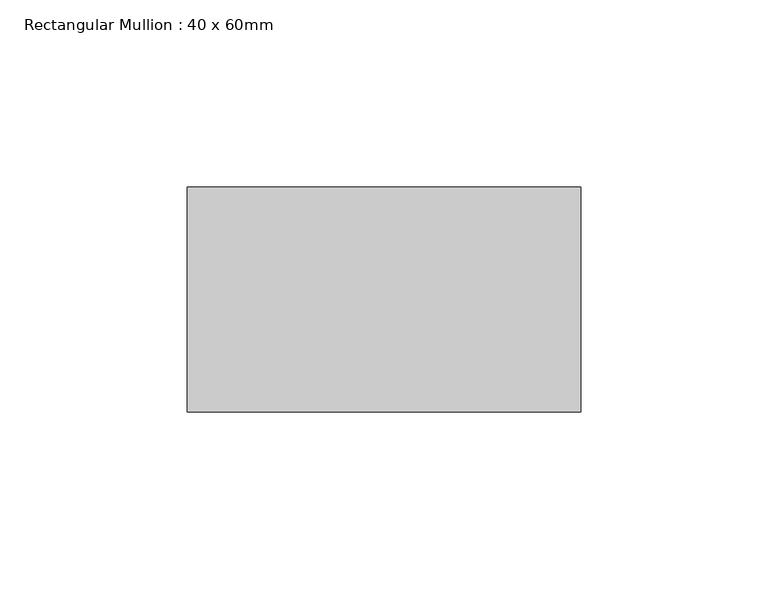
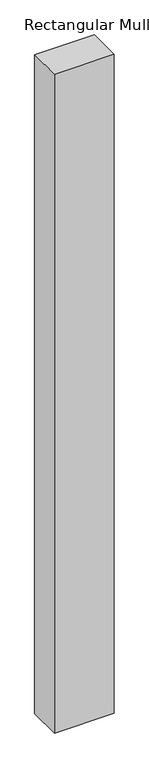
"""IFC4 building model written with IfcOpenShell, lengths in millimetres: member geometry, Rectangular Mullion : 40 x 60mm."""

import ifcopenshell
import ifcopenshell.guid

model = None  # the IFC model being written
_history = None  # IfcOwnerHistory: only IFC2X3 demands one
_inside = {}  # id of a spatial element -> (the spatial element, [elements in it])
_under = {}  # id of a project, library or spatial element -> (it, [spatial elements below it])
_declared = {}  # id of a project -> (the project, [libraries it declares])
_typed = {}  # id of a type object -> (the type object, [elements of that type])
_made_of = {}  # id of a material, layer set ... -> (it, [elements and type objects made of it])


def new_model(schema):
    """Start an empty IFC model of exactly this schema.

    Asked for "IFC4X3", IfcOpenShell would pick the latest addendum, in which some entities
    have other attributes; the version numbers below select the first issue.
    IFC2X3 requires an IfcOwnerHistory on every rooted entity: one is made here for all.
    """
    global model, _history
    if schema == "IFC4X3":
        model = ifcopenshell.file(schema_version=(4, 3, 0, 0))
    else:
        model = ifcopenshell.file(schema=schema)
    _inside.clear()
    _under.clear()
    _declared.clear()
    _typed.clear()
    _made_of.clear()
    _history = None
    if model.schema == "IFC2X3":
        org = make("IfcOrganization", Name="unknown")
        user = make(
            "IfcPersonAndOrganization",
            ThePerson=make("IfcPerson", FamilyName="unknown"),
            TheOrganization=org,
        )
        app = make(
            "IfcApplication",
            ApplicationDeveloper=org,
            Version="unknown",
            ApplicationFullName="unknown",
            ApplicationIdentifier="unknown",
        )
        _history = make(
            "IfcOwnerHistory",
            OwningUser=user,
            OwningApplication=app,
            ChangeAction="ADDED",
            CreationDate=0,
        )
    return model


def make(cls, **values):
    """One entity of the class cls with the attributes given. An attribute that is None is left unset."""
    return model.create_entity(
        cls, **{name: value for name, value in values.items() if value is not None}
    )


def rooted(cls, **values):
    """An entity with a GlobalId (a new one), such as an element, a storey or a relation."""
    return make(cls, GlobalId=ifcopenshell.guid.new(), OwnerHistory=_history, **values)


def si_unit(unit_type, name, prefix=None):
    """IfcSIUnit, for example si_unit("LENGTHUNIT", "METRE", prefix="MILLI")."""
    return make("IfcSIUnit", UnitType=unit_type, Prefix=prefix, Name=name)


def assignment(units):
    """IfcUnitAssignment: the units of a project."""
    return None if units is None else make("IfcUnitAssignment", Units=units)


def point(xyz):
    """IfcCartesianPoint."""
    return None if xyz is None else make("IfcCartesianPoint", Coordinates=xyz)


def direction(xyz):
    """IfcDirection."""
    return None if xyz is None else make("IfcDirection", DirectionRatios=xyz)


def frame(location, z_axis=None, x_axis=None):
    """IfcAxis2Placement3D, a coordinate frame: its origin and axes. An axis left out is left unset."""
    return make(
        "IfcAxis2Placement3D",
        Location=point(location),
        Axis=direction(z_axis),
        RefDirection=direction(x_axis),
    )


def origin():
    """The frame at (0, 0, 0) with its axes left unset."""
    return frame((0.0, 0.0, 0.0))


def place(relative_to, where):
    """IfcLocalPlacement: puts the frame where relative to a parent placement (None: the world)."""
    return make(
        "IfcLocalPlacement", PlacementRelTo=relative_to, RelativePlacement=where
    )


def context(
    kind, dimensions, precision=None, world=None, true_north=None, identifier=None
):
    """IfcGeometricRepresentationContext, for example the 3D "Model" context."""
    return make(
        "IfcGeometricRepresentationContext",
        ContextIdentifier=identifier,
        ContextType=kind,
        CoordinateSpaceDimension=dimensions,
        Precision=precision,
        WorldCoordinateSystem=world,
        TrueNorth=true_north,
    )


def project(units=None, contexts=None):
    """IfcProject with its units and contexts."""
    return rooted(
        "IfcProject",
        Name="project",
        RepresentationContexts=contexts,
        UnitsInContext=assignment(units),
    )


def spatial(cls, under=None, at=None, **own):
    """A site, building, storey or space (cls), placed at a placement, below another one or the project."""
    s = rooted(cls, ObjectPlacement=at, **own)
    if under is not None:
        _under.setdefault(under.id(), (under, []))[1].append(s)
    return s


def polyline(points):
    """IfcPolyline through the points."""
    return make("IfcPolyline", Points=[point(p) for p in points])


def outline(outer, holes=None, kind="AREA"):
    """IfcArbitraryClosedProfileDef: a profile drawn as a closed curve; with holes, ...WithVoids."""
    if holes is None:
        return make("IfcArbitraryClosedProfileDef", ProfileType=kind, OuterCurve=outer)
    return make(
        "IfcArbitraryProfileDefWithVoids",
        ProfileType=kind,
        OuterCurve=outer,
        InnerCurves=holes,
    )


def extrude(swept, where, along, depth):
    """IfcExtrudedAreaSolid: the profile swept, set in the frame where, extruded along a direction by depth."""
    return make(
        "IfcExtrudedAreaSolid",
        SweptArea=swept,
        Position=where,
        ExtrudedDirection=direction(along),
        Depth=depth,
    )


def shape(context_of_items, identifier, shape_type, items):
    """IfcShapeRepresentation: the items that make up one representation, for example the "Body"."""
    return make(
        "IfcShapeRepresentation",
        ContextOfItems=context_of_items,
        RepresentationIdentifier=identifier,
        RepresentationType=shape_type,
        Items=items,
    )


def source(mapping_origin, context_of_items, identifier, shape_type, items):
    """IfcRepresentationMap: a shape defined once, which mapped items show again and again."""
    return make(
        "IfcRepresentationMap",
        MappingOrigin=mapping_origin,
        MappedRepresentation=shape(context_of_items, identifier, shape_type, items),
    )


def transform(
    local_origin,
    x_axis=None,
    y_axis=None,
    z_axis=None,
    scale=None,
    scale2=None,
    scale3=None,
    uniform=True,
):
    """IfcCartesianTransformationOperator3D, or its non-uniform kind. x_axis, y_axis, z_axis: its Axis1, 2, 3."""
    if uniform:
        return make(
            "IfcCartesianTransformationOperator3D",
            Axis1=direction(x_axis),
            Axis2=direction(y_axis),
            LocalOrigin=point(local_origin),
            Scale=scale,
            Axis3=direction(z_axis),
        )
    return make(
        "IfcCartesianTransformationOperator3DnonUniform",
        Axis1=direction(x_axis),
        Axis2=direction(y_axis),
        LocalOrigin=point(local_origin),
        Scale=scale,
        Axis3=direction(z_axis),
        Scale2=scale2,
        Scale3=scale3,
    )


def mapped(mapping_source, mapping_target):
    """IfcMappedItem: shows the shape of a source again, moved by a transform."""
    return make(
        "IfcMappedItem", MappingSource=mapping_source, MappingTarget=mapping_target
    )


def made_of(thing, what):
    """Note that an element or type object is made of a material, layer set ...; save() writes the relation."""
    if what is not None:
        _made_of.setdefault(what.id(), (what, []))[1].append(thing)
    return thing


def element(
    cls,
    number,
    at=None,
    inside=None,
    cuts=None,
    type_object=None,
    material=None,
    context=None,
    identifier="Body",
    shape_type=None,
    held_by="IfcProductDefinitionShape",
    body=None,
    shapes=None,
    **own,
):
    """One element of the class cls, such as IfcWall. Its Tag is "e" and its number.

    at: its placement. inside: the storey or other place that contains it. cuts: it is an
    opening in that element (IfcRelVoidsElement). A single representation is given by context,
    identifier, shape_type and body (its items); several are given by shapes. held_by: the class
    of the entity that holds the representations. save() writes the other relations.
    """
    e = rooted(cls, Tag="e%d" % number, ObjectPlacement=at, **own)
    if body is not None:
        shapes = [shape(context, identifier, shape_type, body)]
    if shapes is not None:
        e.Representation = make(held_by, Representations=shapes)
    if inside is not None:
        _inside.setdefault(inside.id(), (inside, []))[1].append(e)
    if cuts is not None:
        rooted(
            "IfcRelVoidsElement", RelatingBuildingElement=cuts, RelatedOpeningElement=e
        )
    if type_object is not None:
        _typed.setdefault(type_object.id(), (type_object, []))[1].append(e)
    return made_of(e, material)


def aggregate(whole, parts):
    """IfcRelAggregates: a whole, such as a stair, and the parts it consists of."""
    return rooted("IfcRelAggregates", RelatingObject=whole, RelatedObjects=parts)


def save(model, path):
    """Write the relations noted so far, then the file.

    IfcRelAggregates (storeys below a building ...), IfcRelContainedInSpatialStructure (elements
    in a storey), IfcRelDefinesByType, IfcRelAssociatesMaterial and IfcRelDeclares: one each for
    every whole, place, type object, material and project.
    """
    for whole, parts in _under.values():
        aggregate(whole, parts)
    for where, things in _inside.values():
        rooted(
            "IfcRelContainedInSpatialStructure",
            RelatedElements=things,
            RelatingStructure=where,
        )
    for kind, things in _typed.values():
        rooted("IfcRelDefinesByType", RelatedObjects=things, RelatingType=kind)
    for what, things in _made_of.values():
        rooted("IfcRelAssociatesMaterial", RelatedObjects=things, RelatingMaterial=what)
    for by, libraries in _declared.values():
        rooted("IfcRelDeclares", RelatingContext=by, RelatedDefinitions=libraries)
    model.write(path)


def rectangular_mullion_40_x_60mm_f522b8de(model_context):
    return source(origin(), model_context, "Body", "SweptSolid", [
        extrude(outline(polyline([(80.0, -10.0), (80.0, -70.0), (-25.0, -70.0), (-25.0, -10.0), (80.0, -10.0)])), frame((0.0, 0.0, -1226.4374718), z_axis=(0.0, 0.0, 1.0), x_axis=(1.0, 0.0, 0.0)), (0.0, 0.0, 1.0), 1226.4374718),
    ])


if __name__ == "__main__":
    model = new_model("IFC4")
    model_context = context("Model", 3, world=origin())
    ifc_project = project(units=[si_unit("LENGTHUNIT", "METRE", prefix="MILLI")], contexts=[model_context])
    site = spatial("IfcSite", under=ifc_project)
    building = spatial("IfcBuilding", under=site)
    placement = place(None, origin())
    rectangular_mullion_40_x_60mm_shape = rectangular_mullion_40_x_60mm_f522b8de(model_context)
    element("IfcMember", 1, ObjectType="Rectangular Mullion : 40 x 60mm", at=placement, inside=building, context=model_context, shape_type="MappedRepresentation", body=[
        mapped(rectangular_mullion_40_x_60mm_shape, transform((0.0, 0.0, 0.0), x_axis=(1.0, 0.0, 0.0), y_axis=(0.0, 1.0, 0.0), z_axis=(0.0, 0.0, 1.0))),
    ])
    save(model, "model.ifc")
